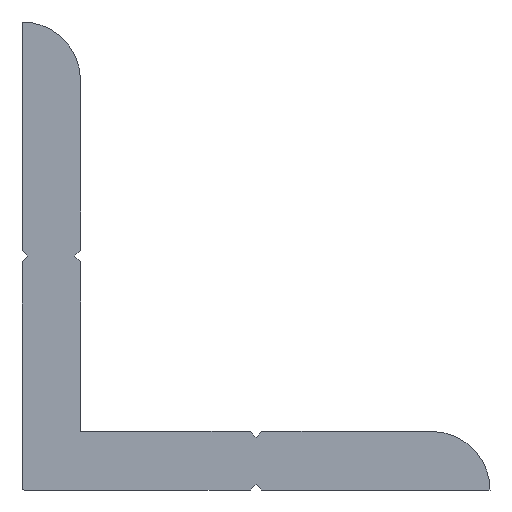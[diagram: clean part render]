
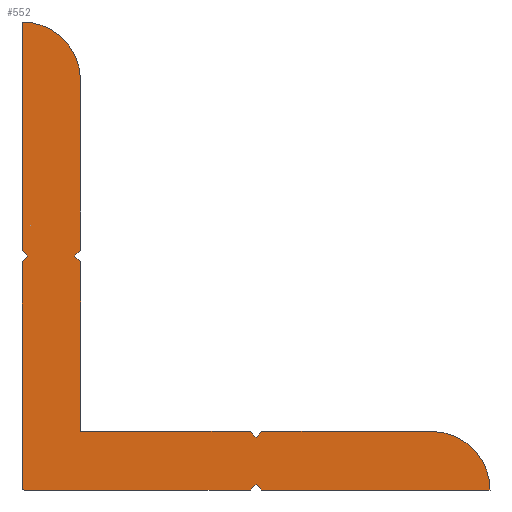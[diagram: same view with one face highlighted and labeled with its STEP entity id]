
A CAD part, front view. The second image highlights one B-rep face of the part: STEP entity #552.
In plain terms, the highlighted planar face has unit normal (0, -1, 0).
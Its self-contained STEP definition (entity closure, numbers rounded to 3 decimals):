
#27=CIRCLE('',#582,0.2);
#28=CIRCLE('',#583,5.);
#29=CIRCLE('',#584,5.);
#57=ORIENTED_EDGE('',*,*,#169,.F.);
#58=ORIENTED_EDGE('',*,*,#170,.T.);
#59=ORIENTED_EDGE('',*,*,#171,.F.);
#60=ORIENTED_EDGE('',*,*,#172,.T.);
#61=ORIENTED_EDGE('',*,*,#173,.T.);
#62=ORIENTED_EDGE('',*,*,#174,.F.);
#63=ORIENTED_EDGE('',*,*,#175,.T.);
#64=ORIENTED_EDGE('',*,*,#146,.F.);
#65=ORIENTED_EDGE('',*,*,#176,.F.);
#66=ORIENTED_EDGE('',*,*,#177,.F.);
#67=ORIENTED_EDGE('',*,*,#178,.F.);
#68=ORIENTED_EDGE('',*,*,#150,.F.);
#69=ORIENTED_EDGE('',*,*,#179,.F.);
#70=ORIENTED_EDGE('',*,*,#180,.F.);
#71=ORIENTED_EDGE('',*,*,#181,.F.);
#72=ORIENTED_EDGE('',*,*,#182,.T.);
#73=ORIENTED_EDGE('',*,*,#183,.F.);
#74=ORIENTED_EDGE('',*,*,#184,.T.);
#75=ORIENTED_EDGE('',*,*,#185,.T.);
#146=EDGE_CURVE('',#203,#204,#241,.T.);
#150=EDGE_CURVE('',#207,#208,#245,.T.);
#169=EDGE_CURVE('',#224,#225,#261,.T.);
#170=EDGE_CURVE('',#224,#226,#27,.F.);
#171=EDGE_CURVE('',#227,#226,#262,.T.);
#172=EDGE_CURVE('',#227,#228,#263,.T.);
#173=EDGE_CURVE('',#228,#229,#264,.T.);
#174=EDGE_CURVE('',#230,#229,#265,.T.);
#175=EDGE_CURVE('',#230,#204,#28,.F.);
#176=EDGE_CURVE('',#231,#203,#266,.T.);
#177=EDGE_CURVE('',#232,#231,#267,.T.);
#178=EDGE_CURVE('',#208,#232,#268,.T.);
#179=EDGE_CURVE('',#233,#207,#269,.T.);
#180=EDGE_CURVE('',#234,#233,#270,.T.);
#181=EDGE_CURVE('',#235,#234,#271,.T.);
#182=EDGE_CURVE('',#235,#236,#29,.F.);
#183=EDGE_CURVE('',#237,#236,#272,.T.);
#184=EDGE_CURVE('',#237,#238,#273,.T.);
#185=EDGE_CURVE('',#238,#225,#274,.T.);
#203=VERTEX_POINT('',#715);
#204=VERTEX_POINT('',#717);
#207=VERTEX_POINT('',#724);
#208=VERTEX_POINT('',#726);
#224=VERTEX_POINT('',#763);
#225=VERTEX_POINT('',#764);
#226=VERTEX_POINT('',#766);
#227=VERTEX_POINT('',#768);
#228=VERTEX_POINT('',#770);
#229=VERTEX_POINT('',#772);
#230=VERTEX_POINT('',#774);
#231=VERTEX_POINT('',#777);
#232=VERTEX_POINT('',#779);
#233=VERTEX_POINT('',#782);
#234=VERTEX_POINT('',#784);
#235=VERTEX_POINT('',#786);
#236=VERTEX_POINT('',#788);
#237=VERTEX_POINT('',#790);
#238=VERTEX_POINT('',#792);
#241=LINE('',#716,#292);
#245=LINE('',#725,#296);
#261=LINE('',#762,#312);
#262=LINE('',#767,#313);
#263=LINE('',#769,#314);
#264=LINE('',#771,#315);
#265=LINE('',#773,#316);
#266=LINE('',#776,#317);
#267=LINE('',#778,#318);
#268=LINE('',#780,#319);
#269=LINE('',#781,#320);
#270=LINE('',#783,#321);
#271=LINE('',#785,#322);
#272=LINE('',#789,#323);
#273=LINE('',#791,#324);
#274=LINE('',#793,#325);
#292=VECTOR('',#608,1000.);
#296=VECTOR('',#614,1000.);
#312=VECTOR('',#640,1000.);
#313=VECTOR('',#643,1000.);
#314=VECTOR('',#644,1000.);
#315=VECTOR('',#645,1000.);
#316=VECTOR('',#646,1000.);
#317=VECTOR('',#649,1000.);
#318=VECTOR('',#650,1000.);
#319=VECTOR('',#651,1000.);
#320=VECTOR('',#652,1000.);
#321=VECTOR('',#653,1000.);
#322=VECTOR('',#654,1000.);
#323=VECTOR('',#657,1000.);
#324=VECTOR('',#658,1000.);
#325=VECTOR('',#659,1000.);
#344=EDGE_LOOP('',(#57,#58,#59,#60,#61,#62,#63,#64,#65,#66,#67,#68,#69,
#70,#71,#72,#73,#74,#75));
#365=FACE_BOUND('',#344,.T.);
#386=PLANE('',#581);
#552=ADVANCED_FACE('',(#365),#386,.F.);
#581=AXIS2_PLACEMENT_3D('',#761,#638,#639);
#582=AXIS2_PLACEMENT_3D('',#765,#641,#642);
#583=AXIS2_PLACEMENT_3D('',#775,#647,#648);
#584=AXIS2_PLACEMENT_3D('',#787,#655,#656);
#608=DIRECTION('',(1.,0.,0.));
#614=DIRECTION('',(0.,0.,-1.));
#638=DIRECTION('',(0.,1.,0.));
#639=DIRECTION('',(0.,0.,1.));
#640=DIRECTION('',(0.,0.,1.));
#641=DIRECTION('',(0.,1.,0.));
#642=DIRECTION('',(0.,0.,1.));
#643=DIRECTION('',(-1.,0.,0.));
#644=DIRECTION('',(0.707,0.,0.707));
#645=DIRECTION('',(0.707,0.,-0.707));
#646=DIRECTION('',(-1.,0.,0.));
#647=DIRECTION('',(0.,1.,0.));
#648=DIRECTION('',(0.,0.,1.));
#649=DIRECTION('',(0.707,0.,0.707));
#650=DIRECTION('',(0.707,0.,-0.707));
#651=DIRECTION('',(1.,0.,0.));
#652=DIRECTION('',(0.707,0.,-0.707));
#653=DIRECTION('',(-0.707,0.,-0.707));
#654=DIRECTION('',(0.,0.,-1.));
#655=DIRECTION('',(0.,1.,0.));
#656=DIRECTION('',(0.,0.,1.));
#657=DIRECTION('',(0.,0.,1.));
#658=DIRECTION('',(0.707,0.,-0.707));
#659=DIRECTION('',(-0.707,0.,-0.707));
#715=CARTESIAN_POINT('',(20.5,0.,5.));
#716=CARTESIAN_POINT('',(5.,0.,5.));
#717=CARTESIAN_POINT('',(35.,0.,5.));
#724=CARTESIAN_POINT('',(5.,0.,19.5));
#725=CARTESIAN_POINT('',(5.,0.,40.));
#726=CARTESIAN_POINT('',(5.,0.,5.));
#761=CARTESIAN_POINT('',(0.,0.,0.));
#762=CARTESIAN_POINT('',(0.,0.,0.));
#763=CARTESIAN_POINT('',(0.,0.,0.2));
#764=CARTESIAN_POINT('',(0.,0.,19.5));
#765=CARTESIAN_POINT('',(0.2,0.,0.2));
#766=CARTESIAN_POINT('',(0.2,0.,0.));
#767=CARTESIAN_POINT('',(40.,0.,0.));
#768=CARTESIAN_POINT('',(19.5,0.,0.));
#769=CARTESIAN_POINT('',(19.5,0.,0.));
#770=CARTESIAN_POINT('',(20.,0.,0.5));
#771=CARTESIAN_POINT('',(20.,0.,0.5));
#772=CARTESIAN_POINT('',(20.5,0.,0.));
#773=CARTESIAN_POINT('',(40.,0.,0.));
#774=CARTESIAN_POINT('',(40.,0.,0.));
#775=CARTESIAN_POINT('',(35.,0.,0.));
#776=CARTESIAN_POINT('',(20.,0.,4.5));
#777=CARTESIAN_POINT('',(20.,0.,4.5));
#778=CARTESIAN_POINT('',(19.5,0.,5.));
#779=CARTESIAN_POINT('',(19.5,0.,5.));
#780=CARTESIAN_POINT('',(5.,0.,5.));
#781=CARTESIAN_POINT('',(4.5,0.,20.));
#782=CARTESIAN_POINT('',(4.5,0.,20.));
#783=CARTESIAN_POINT('',(5.,0.,20.5));
#784=CARTESIAN_POINT('',(5.,0.,20.5));
#785=CARTESIAN_POINT('',(5.,0.,40.));
#786=CARTESIAN_POINT('',(5.,0.,35.));
#787=CARTESIAN_POINT('',(0.,0.,35.));
#788=CARTESIAN_POINT('',(0.,0.,40.));
#789=CARTESIAN_POINT('',(0.,0.,0.));
#790=CARTESIAN_POINT('',(0.,0.,20.5));
#791=CARTESIAN_POINT('',(0.,0.,20.5));
#792=CARTESIAN_POINT('',(0.5,0.,20.));
#793=CARTESIAN_POINT('',(0.5,0.,20.));
